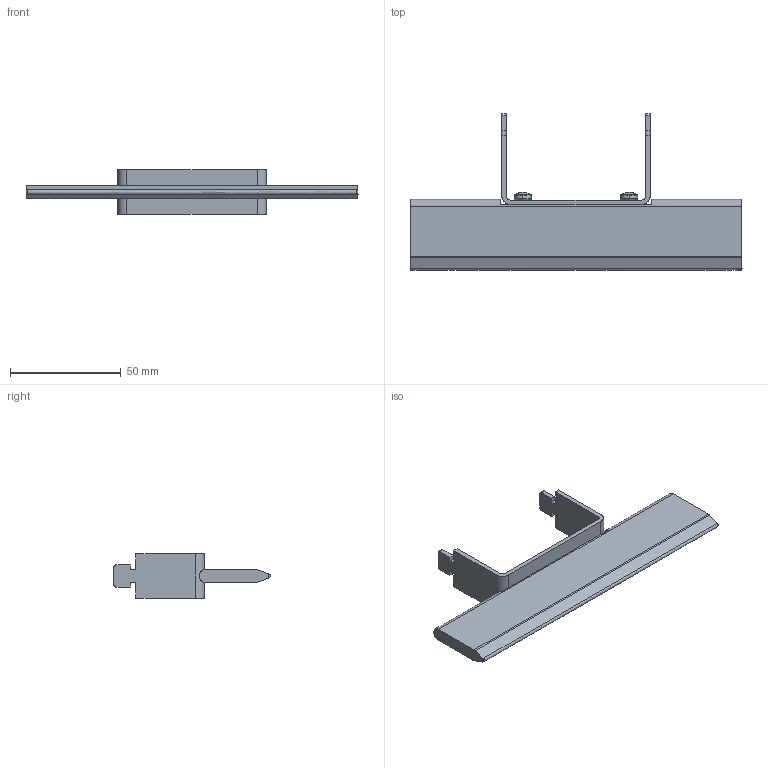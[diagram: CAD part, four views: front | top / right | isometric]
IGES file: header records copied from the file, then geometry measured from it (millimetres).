
Start section: SolidWorks IGES file using analytic representation for surfaces
Global section: file name: U:\14_RD\05_Technical_office\04_Office\Hrdinova\3D modely - IGES\Varius - Ostatní\ZP3.IGS; native system: SolidWorks 2011; preprocessor: SolidWorks 2011; author: adhrja3; date: 170621.073518; units: millimetre
Bounding box: 150 x 70.7 x 20 mm (x, y, z)
Surface area: 17278.9 mm2 (no closed solid volume)
Topology: 0 solids, 0 shells, 145 faces, 1494 edges, 1486 vertices
Faces by surface type: bspline 97, revolution 48
